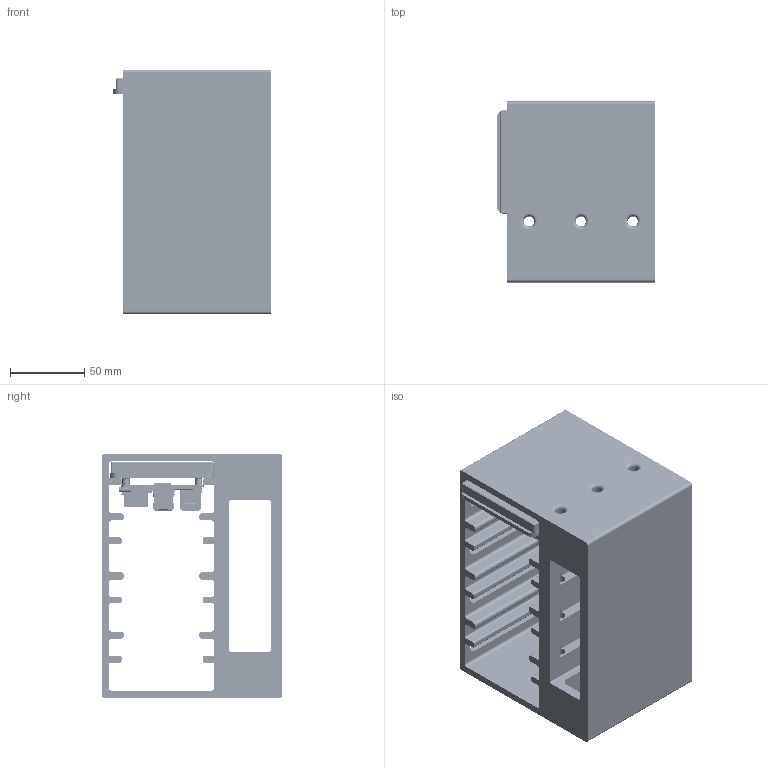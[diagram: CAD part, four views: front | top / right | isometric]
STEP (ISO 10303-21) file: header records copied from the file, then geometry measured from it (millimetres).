
FILE_DESCRIPTION(('FreeCAD Model'),'2;1');
FILE_NAME('Open CASCADE Shape Model','2025-09-02T15:19:30',(''),(''), 'Open CASCADE STEP processor 7.9','FreeCAD','Unknown');
FILE_SCHEMA(('AUTOMOTIVE_DESIGN { 1 0 10303 214 1 1 1 1 }'));
Length unit declared in the file: millimetre
Products named in the file (111): Assembly; Body; ssd_reference_model_3d001 (Solid)001; 00-RASPBERRY-PI-5-SBC-SIMPLE_ASM; CONNECTOR; GPIO_ASM; SOLID-1355; SOLID-1356; SOLID-1357; SOLID-1358; SOLID-1359; SOLID-1360; SOLID-1361; SOLID-1362; SOLID-1363; SOLID-1364; SOLID-1365; SOLID-1366; SOLID-1367; SOLID-1368; SOLID-1369; SOLID-1370; SOLID-1371; SOLID-1372; SOLID-1373; SOLID-1374; SOLID-1375; SOLID-1376; SOLID-1377; SOLID-1378; SOLID-1379; SOLID-1380; SOLID-1381; SOLID-1382; SOLID-1383; SOLID-1384; SOLID-1385; SOLID-1386; SOLID-1387; SOLID-1388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
Assembly tree (110 placements, depth 5):
  Assembly
    Body
    ssd_reference_model_3d001 (Solid)001
    00-RASPBERRY-PI-5-SBC-SIMPLE_ASM
      CONNECTOR
      GPIO_ASM
        SOLID-1355
        SOLID-1356
        SOLID-1357
        SOLID-1358
        SOLID-1359
        SOLID-1360
        SOLID-1361
        SOLID-1362
        SOLID-1363
        SOLID-1364
        SOLID-1365
        SOLID-1366
        SOLID-1367
        SOLID-1368
        SOLID-1369
        SOLID-1370
        SOLID-1371
        SOLID-1372
        SOLID-1373
        SOLID-1374
        SOLID-1375
        SOLID-1376
        SOLID-1377
        SOLID-1378
        SOLID-1379
        SOLID-1380
        SOLID-1381
        SOLID-1382
        SOLID-1383
        SOLID-1384
        SOLID-1385
        SOLID-1386
        SOLID-1387
        SOLID-1388
        SOLID-1389
        SOLID-1390
        SOLID-1391
        SOLID-1392
        SOLID-1393
        SOLID-1394
        GPIO-HEADER
      MOUNTING-HOLES_ASM
        GROUND-1426
        GROUND-1427
        GROUND-1428
        GROUND-1429
      PCB
      PCBA-COMPONENTS_ASM
        PCBA-COMPONENTS_GEOMETRY_ASM
          RAM
          CPU
          CHIP-1454
          CHIP-1455
          CHIP-1456
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Bounding box: 106.45 x 122.17 x 165 mm (x, y, z)
Volume: 613992.2 mm3; surface area: 238110.7 mm2
Topology: 104 solids, 2991 shells, 17380 faces, 68323 edges, 110551 vertices
Faces by surface type: plane 15288, cylinder 1883, bspline 64, extrusion 62, cone 36, torus 31, sphere 15, revolution 1
Full cylindrical faces by diameter (mm): 2.5 x4, 4 x4, 5 x10, 7 x3, 7.2 x4
Entity records: 952644 total; most frequent: CARTESIAN_POINT 219104, DIRECTION 105492, ORIENTED_EDGE 80467, VECTOR 61683, LINE 61621, EDGE_CURVE 49515, VERTEX_POINT 35364, AXIS2_PLACEMENT_3D 21904
